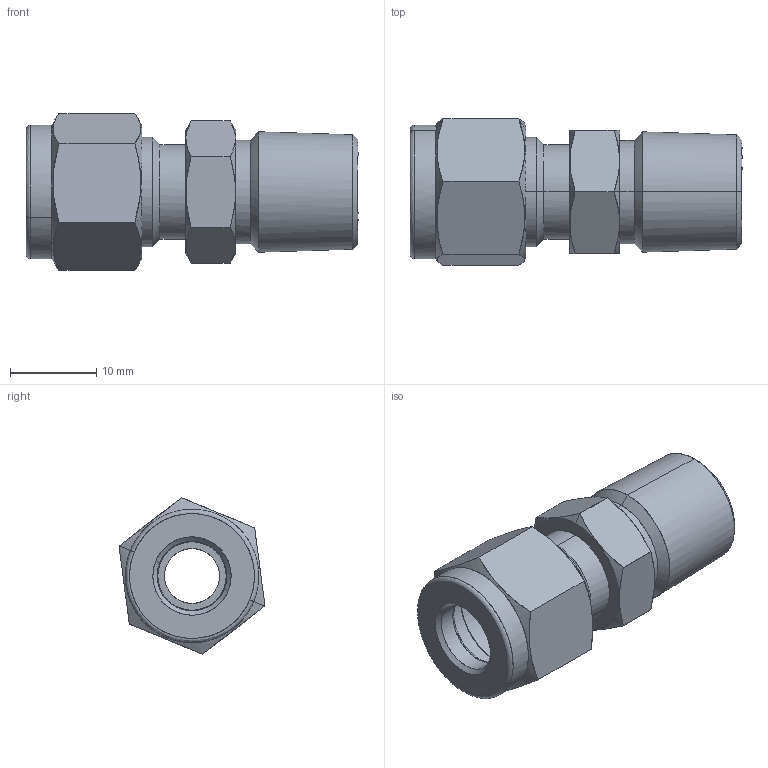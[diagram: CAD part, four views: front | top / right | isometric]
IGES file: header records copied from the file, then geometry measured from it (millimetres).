
Start section: Comment
Global section: file name: SMC5-4N.igs; native system:  By UGS Corp.; preprocessor: XPlus GENERIC/IGES 3.0; author: Author; organization: Title; date: 20100113.155319; units: millimetre
Bounding box: 38.54 x 16.95 x 18.18 mm (x, y, z)
Surface area: 3721.1 mm2 (no closed solid volume)
Topology: 0 solids, 0 shells, 84 faces, 370 edges, 370 vertices
Faces by surface type: bspline 84
